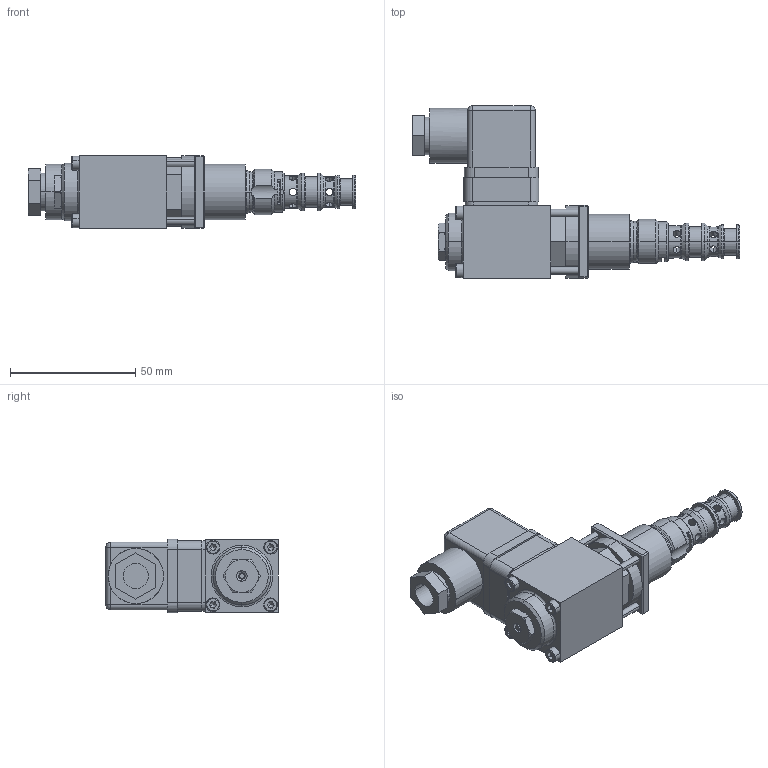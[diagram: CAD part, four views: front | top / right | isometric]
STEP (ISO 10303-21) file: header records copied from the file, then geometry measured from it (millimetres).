
FILE_DESCRIPTION (( 'STEP AP214' ), '1' );
FILE_NAME ('MVPPM18.STEP', '2017-04-13T12:35:29', ( '' ), ( '' ), 'SwSTEP 2.0', 'SolidWorks 2016', '' );
FILE_SCHEMA (( 'AUTOMOTIVE_DESIGN' ));
Length unit declared in the file: millimetre
Products named in the file (1): MVPPM18
Bounding box: 130.55 x 68.8 x 29.5 mm (x, y, z)
Volume: 86207.5 mm3; surface area: 30512.2 mm2
Topology: 7 solids, 9 shells, 710 faces, 1798 edges, 1116 vertices
Faces by surface type: plane 355, cylinder 224, cone 71, torus 54, bspline 6
Entity records: 30036 total; most frequent: CARTESIAN_POINT 4873, DIRECTION 3690, ORIENTED_EDGE 3560, EDGE_CURVE 1780, AXIS2_PLACEMENT_3D 1337, VERTEX_POINT 1116, LINE 1016, VECTOR 1016
